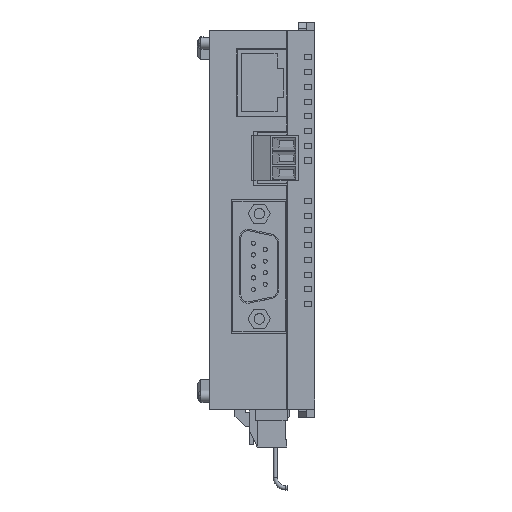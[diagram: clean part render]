
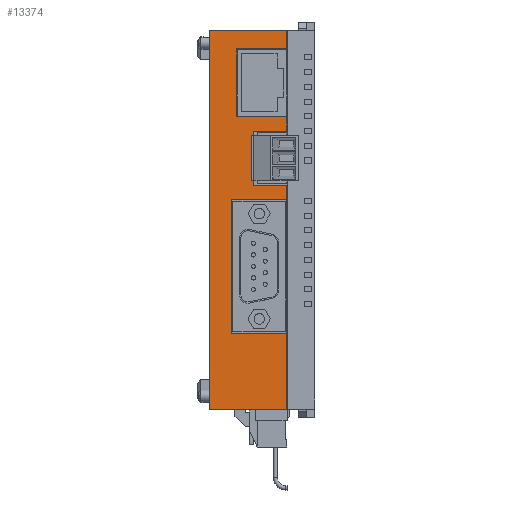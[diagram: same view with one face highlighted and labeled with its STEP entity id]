
A CAD part, top view. The second image highlights one B-rep face of the part: STEP entity #13374.
In plain terms, the highlighted planar face has unit normal (0, 0, 1).
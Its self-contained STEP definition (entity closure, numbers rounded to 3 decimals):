
#7405 = CARTESIAN_POINT ( 'NONE',  ( 5.8, 45., 60. ) ) ;
#7418 = DIRECTION ( 'NONE',  ( 0., -1., 0. ) ) ;
#7431 = VECTOR ( 'NONE', #7418, 1000. ) ;
#7464 = LINE ( 'NONE', #7405, #7431 ) ;
#7616 = CARTESIAN_POINT ( 'NONE',  ( 5.8, 4.8, 60. ) ) ;
#7740 = CARTESIAN_POINT ( 'NONE',  ( 5.8, 8.2, 60. ) ) ;
#7744 = CARTESIAN_POINT ( 'NONE',  ( 5.8, 24.45, 60. ) ) ;
#7752 = CARTESIAN_POINT ( 'NONE',  ( 5.8, 21., 60. ) ) ;
#8216 = DIRECTION ( 'NONE',  ( 0., -1., 0. ) ) ;
#8217 = VECTOR ( 'NONE', #8216, 1000. ) ;
#8218 = CARTESIAN_POINT ( 'NONE',  ( 5.8, 45., 60. ) ) ;
#8221 = LINE ( 'NONE', #8218, #8217 ) ;
#8327 = CARTESIAN_POINT ( 'NONE',  ( 5.8, -45., 60. ) ) ;
#8363 = DIRECTION ( 'NONE',  ( 0., -1., 0. ) ) ;
#8364 = VECTOR ( 'NONE', #8363, 1000. ) ;
#8365 = CARTESIAN_POINT ( 'NONE',  ( 5.8, 45., 60. ) ) ;
#8460 = LINE ( 'NONE', #8365, #8364 ) ;
#8513 = CARTESIAN_POINT ( 'NONE',  ( 5.8, -27., 60. ) ) ;
#9086 = EDGE_CURVE ( 'NONE', #9355, #9402, #7464, .T. ) ;
#9157 = VERTEX_POINT ( 'NONE', #7616 ) ;
#9200 = VERTEX_POINT ( 'NONE', #7752 ) ;
#9203 = VERTEX_POINT ( 'NONE', #7744 ) ;
#9204 = VERTEX_POINT ( 'NONE', #7740 ) ;
#9301 = EDGE_CURVE ( 'NONE', #9204, #9157, #8460, .T. ) ;
#9315 = EDGE_CURVE ( 'NONE', #9203, #9200, #8221, .T. ) ;
#9355 = VERTEX_POINT ( 'NONE', #8513 ) ;
#9402 = VERTEX_POINT ( 'NONE', #8327 ) ;
#9619 = CARTESIAN_POINT ( 'NONE',  ( -12.5, -45., 60. ) ) ;
#9644 = CARTESIAN_POINT ( 'NONE',  ( -12.5, 45., 60. ) ) ;
#9709 = DIRECTION ( 'NONE',  ( 0., -1., 0. ) ) ;
#9711 = VECTOR ( 'NONE', #9709, 1000. ) ;
#9713 = CARTESIAN_POINT ( 'NONE',  ( -12.5, 45., 60. ) ) ;
#9815 = EDGE_CURVE ( 'NONE', #9868, #9853, #9886, .T. ) ;
#9853 = VERTEX_POINT ( 'NONE', #9619 ) ;
#9868 = VERTEX_POINT ( 'NONE', #9644 ) ;
#9886 = LINE ( 'NONE', #9713, #9711 ) ;
#11012 = EDGE_CURVE ( 'NONE', #9853, #9402, #11749, .T. ) ;
#11740 = DIRECTION ( 'NONE',  ( 1., 0., 0. ) ) ;
#11746 = VECTOR ( 'NONE', #11740, 1000. ) ;
#11748 = CARTESIAN_POINT ( 'NONE',  ( -12.5, -45., 60. ) ) ;
#11749 = LINE ( 'NONE', #11748, #11746 ) ;
#12900 = EDGE_CURVE ( 'NONE', #12913, #9868, #15803, .T. ) ;
#12913 = VERTEX_POINT ( 'NONE', #15780 ) ;
#13107 = ORIENTED_EDGE ( 'NONE', *, *, #13363, .F. ) ;
#13108 = ORIENTED_EDGE ( 'NONE', *, *, #9086, .F. ) ;
#13109 = ORIENTED_EDGE ( 'NONE', *, *, #9815, .T. ) ;
#13110 = ORIENTED_EDGE ( 'NONE', *, *, #11012, .T. ) ;
#13111 = ORIENTED_EDGE ( 'NONE', *, *, #9301, .F. ) ;
#13121 = ORIENTED_EDGE ( 'NONE', *, *, #13378, .F. ) ;
#13122 = VERTEX_POINT ( 'NONE', #16137 ) ;
#13123 = EDGE_CURVE ( 'NONE', #13367, #9355, #16079, .T. ) ;
#13131 = EDGE_CURVE ( 'NONE', #13147, #13146, #16094, .T. ) ;
#13140 = ORIENTED_EDGE ( 'NONE', *, *, #13365, .F. ) ;
#13141 = ORIENTED_EDGE ( 'NONE', *, *, #13123, .F. ) ;
#13142 = EDGE_LOOP ( 'NONE', ( #13121, #13207, #13362, #13107, #13209, #13109, #13110, #13108, #13141, #13140, #13364, #13111, #13220, #13361, #13379, #13366 ) ) ;
#13146 = VERTEX_POINT ( 'NONE', #16065 ) ;
#13147 = VERTEX_POINT ( 'NONE', #16064 ) ;
#13207 = ORIENTED_EDGE ( 'NONE', *, *, #13131, .F. ) ;
#13208 = EDGE_CURVE ( 'NONE', #13375, #13147, #16236, .T. ) ;
#13209 = ORIENTED_EDGE ( 'NONE', *, *, #12900, .T. ) ;
#13218 = VERTEX_POINT ( 'NONE', #16315 ) ;
#13219 = EDGE_CURVE ( 'NONE', #13223, #9204, #16312, .T. ) ;
#13220 = ORIENTED_EDGE ( 'NONE', *, *, #13219, .F. ) ;
#13221 = EDGE_CURVE ( 'NONE', #13218, #13223, #16326, .T. ) ;
#13223 = VERTEX_POINT ( 'NONE', #16230 ) ;
#13227 = EDGE_CURVE ( 'NONE', #9200, #13218, #16288, .T. ) ;
#13360 = EDGE_CURVE ( 'NONE', #9157, #13122, #16813, .T. ) ;
#13361 = ORIENTED_EDGE ( 'NONE', *, *, #13221, .F. ) ;
#13362 = ORIENTED_EDGE ( 'NONE', *, *, #13208, .F. ) ;
#13363 = EDGE_CURVE ( 'NONE', #12913, #13375, #16964, .T. ) ;
#13364 = ORIENTED_EDGE ( 'NONE', *, *, #13360, .F. ) ;
#13365 = EDGE_CURVE ( 'NONE', #13122, #13367, #17037, .T. ) ;
#13366 = ORIENTED_EDGE ( 'NONE', *, *, #9315, .F. ) ;
#13367 = VERTEX_POINT ( 'NONE', #17030 ) ;
#13374 = ADVANCED_FACE ( 'NONE', ( #17508 ), #17416, .T. ) ;
#13375 = VERTEX_POINT ( 'NONE', #17525 ) ;
#13378 = EDGE_CURVE ( 'NONE', #13146, #9203, #17419, .T. ) ;
#13379 = ORIENTED_EDGE ( 'NONE', *, *, #13227, .F. ) ;
#15754 = DIRECTION ( 'NONE',  ( -1., 0., 0. ) ) ;
#15780 = CARTESIAN_POINT ( 'NONE',  ( 5.8, 45., 60. ) ) ;
#15801 = VECTOR ( 'NONE', #15754, 1000. ) ;
#15802 = CARTESIAN_POINT ( 'NONE',  ( -12.5, 45., 60. ) ) ;
#15803 = LINE ( 'NONE', #15802, #15801 ) ;
#16064 = CARTESIAN_POINT ( 'NONE',  ( -6.1, 40.55, 60. ) ) ;
#16065 = CARTESIAN_POINT ( 'NONE',  ( -6.1, 24.45, 60. ) ) ;
#16078 = CARTESIAN_POINT ( 'NONE',  ( -7.4, -27., 60. ) ) ;
#16079 = LINE ( 'NONE', #16078, #16136 ) ;
#16082 = VECTOR ( 'NONE', #16142, 1000. ) ;
#16093 = CARTESIAN_POINT ( 'NONE',  ( -6.1, 40.55, 60. ) ) ;
#16094 = LINE ( 'NONE', #16093, #16082 ) ;
#16135 = DIRECTION ( 'NONE',  ( 1., 0., 0. ) ) ;
#16136 = VECTOR ( 'NONE', #16135, 1000. ) ;
#16137 = CARTESIAN_POINT ( 'NONE',  ( -7.4, 4.8, 60. ) ) ;
#16142 = DIRECTION ( 'NONE',  ( 0., -1., 0. ) ) ;
#16230 = CARTESIAN_POINT ( 'NONE',  ( -2.1, 8.2, 60. ) ) ;
#16234 = DIRECTION ( 'NONE',  ( -1., 0., 0. ) ) ;
#16235 = VECTOR ( 'NONE', #16234, 1000. ) ;
#16236 = LINE ( 'NONE', #16268, #16283 ) ;
#16260 = DIRECTION ( 'NONE',  ( -1., 0., 0. ) ) ;
#16268 = CARTESIAN_POINT ( 'NONE',  ( 5.8, 40.55, 60. ) ) ;
#16270 = DIRECTION ( 'NONE',  ( 0., -1., 0. ) ) ;
#16271 = VECTOR ( 'NONE', #16270, 1000. ) ;
#16283 = VECTOR ( 'NONE', #16260, 1000. ) ;
#16285 = DIRECTION ( 'NONE',  ( 1., 0., 0. ) ) ;
#16286 = VECTOR ( 'NONE', #16285, 1000. ) ;
#16287 = CARTESIAN_POINT ( 'NONE',  ( 5.8, 21., 60. ) ) ;
#16288 = LINE ( 'NONE', #16287, #16235 ) ;
#16311 = CARTESIAN_POINT ( 'NONE',  ( 5.8, 8.2, 60. ) ) ;
#16312 = LINE ( 'NONE', #16311, #16286 ) ;
#16315 = CARTESIAN_POINT ( 'NONE',  ( -2.1, 21., 60. ) ) ;
#16325 = CARTESIAN_POINT ( 'NONE',  ( -2.1, 21., 60. ) ) ;
#16326 = LINE ( 'NONE', #16325, #16271 ) ;
#16776 = DIRECTION ( 'NONE',  ( 0., -1., 0. ) ) ;
#16778 = VECTOR ( 'NONE', #16776, 1000. ) ;
#16813 = LINE ( 'NONE', #16962, #16960 ) ;
#16959 = DIRECTION ( 'NONE',  ( -1., 0., 0. ) ) ;
#16960 = VECTOR ( 'NONE', #16959, 1000. ) ;
#16962 = CARTESIAN_POINT ( 'NONE',  ( -7.4, 4.8, 60. ) ) ;
#16964 = LINE ( 'NONE', #17150, #16778 ) ;
#17030 = CARTESIAN_POINT ( 'NONE',  ( -7.4, -27., 60. ) ) ;
#17032 = DIRECTION ( 'NONE',  ( 0., -1., 0. ) ) ;
#17033 = VECTOR ( 'NONE', #17032, 1000. ) ;
#17035 = CARTESIAN_POINT ( 'NONE',  ( -7.4, 4.8, 60. ) ) ;
#17037 = LINE ( 'NONE', #17035, #17033 ) ;
#17150 = CARTESIAN_POINT ( 'NONE',  ( 5.8, 45., 60. ) ) ;
#17227 = DIRECTION ( 'NONE',  ( 1., 0., 0. ) ) ;
#17229 = VECTOR ( 'NONE', #17227, 1000. ) ;
#17238 = DIRECTION ( 'NONE',  ( 1., 0., 0. ) ) ;
#17416 = PLANE ( 'NONE',  #17474 ) ;
#17417 = CARTESIAN_POINT ( 'NONE',  ( 5.8, 24.45, 60. ) ) ;
#17419 = LINE ( 'NONE', #17417, #17229 ) ;
#17474 = AXIS2_PLACEMENT_3D ( 'NONE', #17504, #17530, #17238 ) ;
#17504 = CARTESIAN_POINT ( 'NONE',  ( -12.5, -45., 60. ) ) ;
#17508 = FACE_OUTER_BOUND ( 'NONE', #13142, .T. ) ;
#17525 = CARTESIAN_POINT ( 'NONE',  ( 5.8, 40.55, 60. ) ) ;
#17530 = DIRECTION ( 'NONE',  ( 0., 0., 1. ) ) ;
